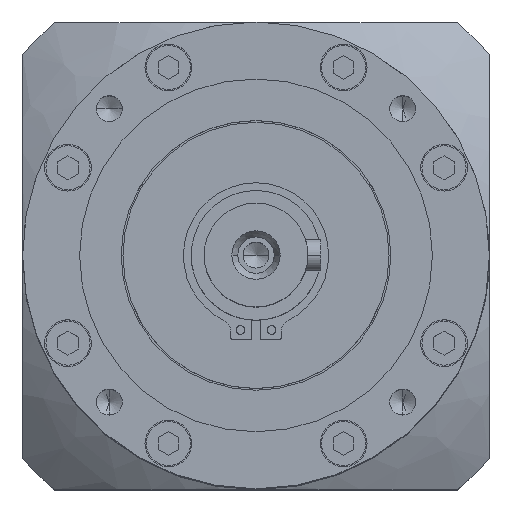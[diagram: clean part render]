
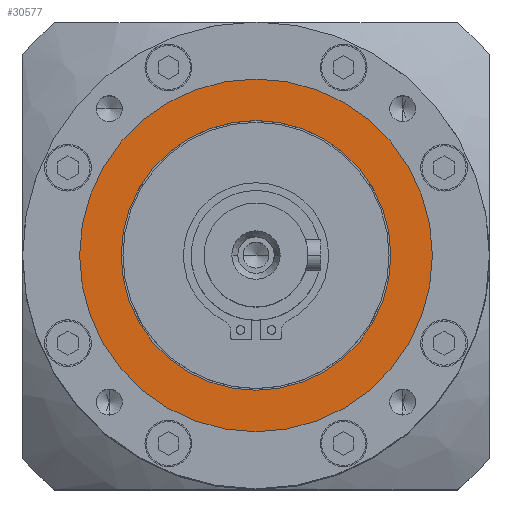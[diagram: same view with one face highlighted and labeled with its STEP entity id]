
A CAD part, top view. The second image highlights one B-rep face of the part: STEP entity #30577.
In plain terms, the highlighted planar face has unit normal (0, 0, 1).
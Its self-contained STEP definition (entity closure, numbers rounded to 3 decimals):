
#970 = DIRECTION ( 'NONE',  ( 1., 0., 0. ) ) ;
#978 = DIRECTION ( 'NONE',  ( 0., 0., 1. ) ) ;
#1016 = CARTESIAN_POINT ( 'NONE',  ( 0., 0., 0. ) ) ;
#1552 = EDGE_CURVE ( 'NONE', #35956, #39236, #36367, .T. ) ;
#1989 = CIRCLE ( 'NONE', #35093, 34. ) ;
#2481 = CARTESIAN_POINT ( 'NONE',  ( 26., 0., 0. ) ) ;
#3365 = EDGE_LOOP ( 'NONE', ( #17217, #16110 ) ) ;
#6334 = CARTESIAN_POINT ( 'NONE',  ( 0., 0., 0. ) ) ;
#6429 = AXIS2_PLACEMENT_3D ( 'NONE', #18776, #12569, #34625 ) ;
#9508 = DIRECTION ( 'NONE',  ( 1., 0., 0. ) ) ;
#10470 = EDGE_CURVE ( 'NONE', #36794, #34256, #37841, .T. ) ;
#11418 = CARTESIAN_POINT ( 'NONE',  ( 34., 0., 0. ) ) ;
#12569 = DIRECTION ( 'NONE',  ( 0., 0., -1. ) ) ;
#14108 = CARTESIAN_POINT ( 'NONE',  ( 0., 0., 0. ) ) ;
#14632 = ORIENTED_EDGE ( 'NONE', *, *, #10470, .F. ) ;
#16058 = DIRECTION ( 'NONE',  ( 0., 0., 1. ) ) ;
#16110 = ORIENTED_EDGE ( 'NONE', *, *, #31712, .F. ) ;
#17217 = ORIENTED_EDGE ( 'NONE', *, *, #1552, .F. ) ;
#17277 = DIRECTION ( 'NONE',  ( 1., 0., 0. ) ) ;
#18776 = CARTESIAN_POINT ( 'NONE',  ( 0., 26., 0. ) ) ;
#20060 = CIRCLE ( 'NONE', #29381, 26. ) ;
#21927 = PLANE ( 'NONE',  #6429 ) ;
#25748 = CARTESIAN_POINT ( 'NONE',  ( -26., 0., 0. ) ) ;
#28352 = DIRECTION ( 'NONE',  ( 0., 0., -1. ) ) ;
#29207 = AXIS2_PLACEMENT_3D ( 'NONE', #1016, #978, #970 ) ;
#29381 = AXIS2_PLACEMENT_3D ( 'NONE', #34937, #16058, #38022 ) ;
#29547 = CARTESIAN_POINT ( 'NONE',  ( -34., 0., 0. ) ) ;
#29953 = EDGE_LOOP ( 'NONE', ( #40008, #14632 ) ) ;
#29957 = FACE_BOUND ( 'NONE', #3365, .T. ) ;
#30577 = ADVANCED_FACE ( 'NONE', ( #29957, #37328 ), #21927, .F. ) ;
#31712 = EDGE_CURVE ( 'NONE', #39236, #35956, #20060, .T. ) ;
#31774 = AXIS2_PLACEMENT_3D ( 'NONE', #6334, #28352, #9508 ) ;
#34256 = VERTEX_POINT ( 'NONE', #11418 ) ;
#34625 = DIRECTION ( 'NONE',  ( -1., 0., 0. ) ) ;
#34937 = CARTESIAN_POINT ( 'NONE',  ( 0., 0., 0. ) ) ;
#35093 = AXIS2_PLACEMENT_3D ( 'NONE', #14108, #36148, #17277 ) ;
#35956 = VERTEX_POINT ( 'NONE', #2481 ) ;
#36148 = DIRECTION ( 'NONE',  ( 0., 0., -1. ) ) ;
#36367 = CIRCLE ( 'NONE', #29207, 26. ) ;
#36794 = VERTEX_POINT ( 'NONE', #29547 ) ;
#37328 = FACE_OUTER_BOUND ( 'NONE', #29953, .T. ) ;
#37841 = CIRCLE ( 'NONE', #31774, 34. ) ;
#38022 = DIRECTION ( 'NONE',  ( 1., 0., 0. ) ) ;
#39236 = VERTEX_POINT ( 'NONE', #25748 ) ;
#40008 = ORIENTED_EDGE ( 'NONE', *, *, #40287, .F. ) ;
#40287 = EDGE_CURVE ( 'NONE', #34256, #36794, #1989, .T. ) ;
